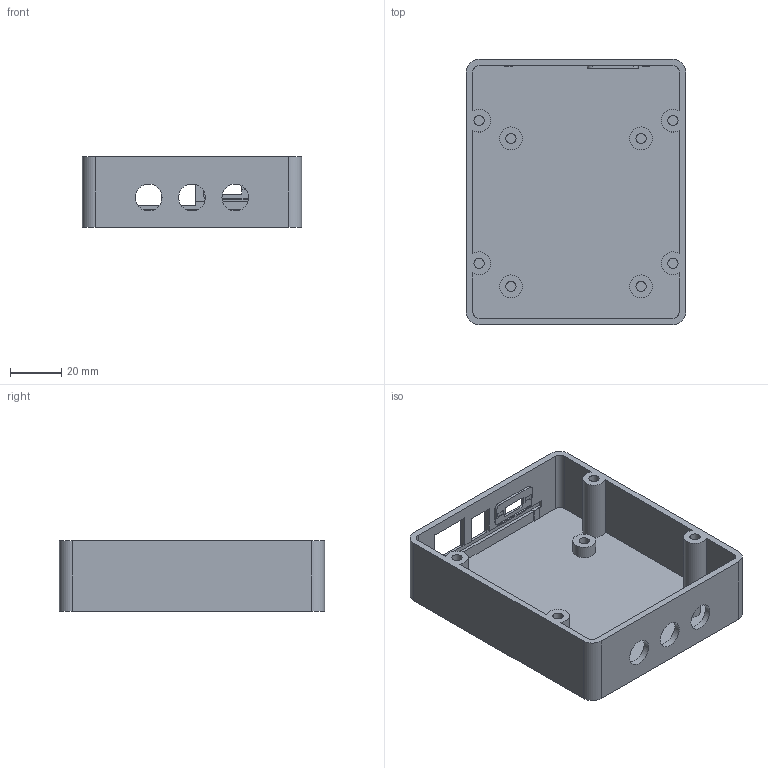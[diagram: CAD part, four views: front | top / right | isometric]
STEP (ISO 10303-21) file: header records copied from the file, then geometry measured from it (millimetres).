
FILE_DESCRIPTION(/* description */ (''),/* implementation_level */ '2;1');
FILE_NAME(/* name */ 'carrier-bottom.step',/* time_stamp */ '2026-09-11T12:50:13-07:00',/* author */ (''),/* organization */ (''),/* preprocessor_version */ 'ST-DEVELOPER v20.1',/* originating_system */ 'Autodesk Translation Framework v15.8.0.0',/* authorisation */ '');
FILE_SCHEMA (('AUTOMOTIVE_DESIGN { 1 0 10303 214 3 1 1 }'));
Length unit declared in the file: centimetre
Products named in the file (1): 01 Bottom shell
Bounding box: 86 x 104 x 27.6 mm (x, y, z)
Volume: 49157.1 mm3; surface area: 38795.2 mm2
Topology: 1 solids, 1 shells, 127 faces, 339 edges, 226 vertices
Faces by surface type: plane 76, cylinder 51
Full cylindrical faces by diameter (mm): 4 x8, 9 x4, 10.5 x3
Entity records: 4047 total; most frequent: CARTESIAN_POINT 703, DIRECTION 697, ORIENTED_EDGE 678, EDGE_CURVE 339, LINE 233, VECTOR 233, AXIS2_PLACEMENT_3D 232, VERTEX_POINT 226
